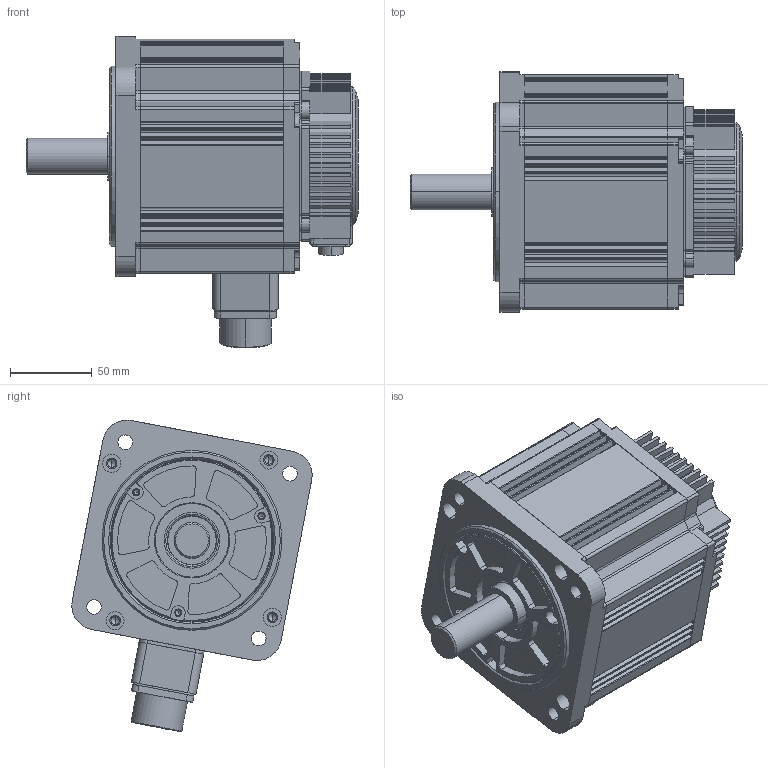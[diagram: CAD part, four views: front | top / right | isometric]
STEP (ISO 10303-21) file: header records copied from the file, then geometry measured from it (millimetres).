
FILE_DESCRIPTION (( 'STEP AP203' ), '1' );
FILE_NAME ('UMM-0010EA-B2_UMM-0010CA-B2.STEP', '2019-04-18T03:57:16', ( '' ), ( '' ), 'SwSTEP 2.0', 'SolidWorks 2017', '' );
FILE_SCHEMA (( 'CONFIG_CONTROL_DESIGN' ));
Length unit declared in the file: millimetre
Products named in the file (1): UMM-0010EA-B2_UMM-0010CA-B2
Bounding box: 203 x 146.96 x 190.58 mm (x, y, z)
Volume: 913882.6 mm3; surface area: 324300 mm2
Topology: 12 solids, 12 shells, 1434 faces, 4044 edges, 2597 vertices
Faces by surface type: cylinder 653, plane 505, bspline 162, cone 114
Entity records: 54042 total; most frequent: CARTESIAN_POINT 17179, ORIENTED_EDGE 7868, DIRECTION 7740, EDGE_CURVE 3934, AXIS2_PLACEMENT_3D 2940, VERTEX_POINT 2597, VECTOR 1860, LINE 1860
